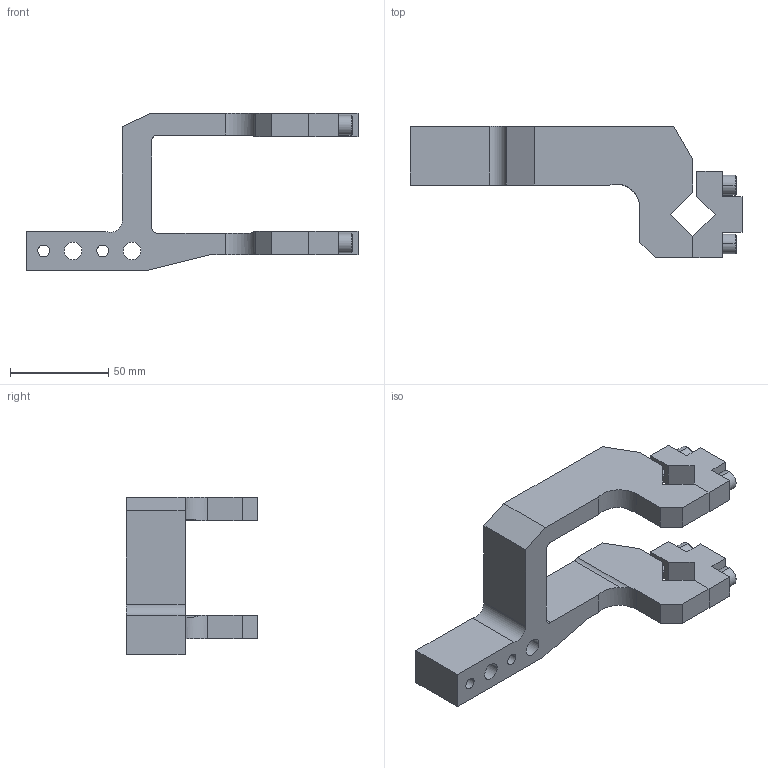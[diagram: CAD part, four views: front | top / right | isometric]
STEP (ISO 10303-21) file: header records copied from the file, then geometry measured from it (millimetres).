
FILE_DESCRIPTION((''),'2;1');
FILE_NAME('S:\Matthew\Step Files\XM Clamp Arms\XJ50-CAR-01.stp','2006-06-28T08:10:57',('Matthew'),(''),'Autodesk Inventor 8','Autodesk Inventor 8','');
FILE_SCHEMA(('AUTOMOTIVE_DESIGN { 1 0 10303 214 1 1 1 1 }'));
Length unit declared in the file: millimetre
Products named in the file (4): XJ50-CAR-01; XJ50-CAR-011; XJ50-CAR-012; XJ50-CAR-013
Assembly tree (3 placements, depth 2):
  XJ50-CAR-01
    XJ50-CAR-011
    XJ50-CAR-012
    XJ50-CAR-013
Bounding box: 169 x 67 x 80 mm (x, y, z)
Volume: 150108.8 mm3; surface area: 42897.7 mm2
Topology: 3 solids, 3 shells, 148 faces, 374 edges, 240 vertices
Faces by surface type: plane 93, bspline 32, cylinder 15, cone 8
Entity records: 4905 total; most frequent: CARTESIAN_POINT 1319, ORIENTED_EDGE 732, DIRECTION 696, EDGE_CURVE 366, VECTOR 278, LINE 278, VERTEX_POINT 240, AXIS2_PLACEMENT_3D 209
